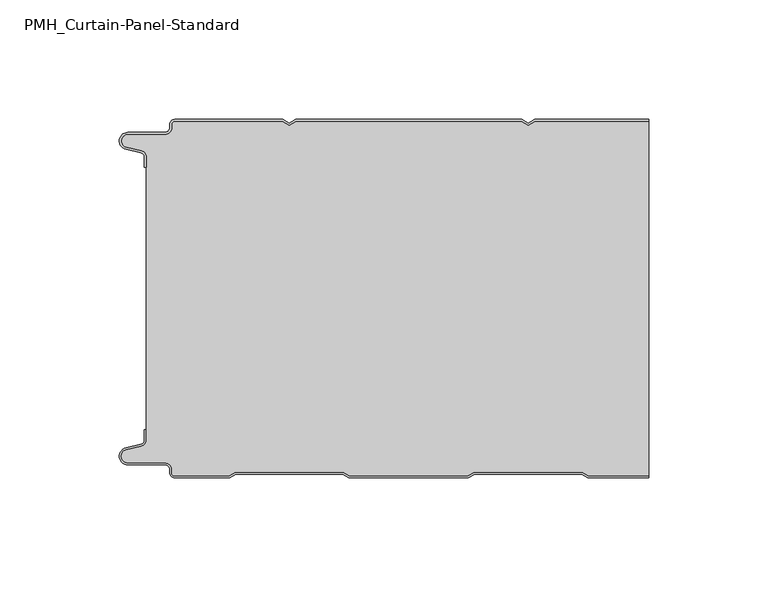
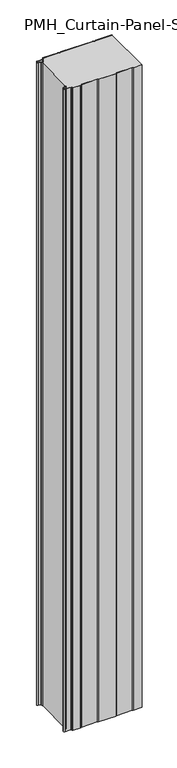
"""IFC4 building model written with IfcOpenShell, lengths in millimetres: plate geometry, PMH_Curtain-Panel-Standard : ACH_PMH_Acoustic-Sectioning-Panel_150M."""

import ifcopenshell
import ifcopenshell.guid

model = None  # the IFC model being written
_history = None  # IfcOwnerHistory: only IFC2X3 demands one
_inside = {}  # id of a spatial element -> (the spatial element, [elements in it])
_under = {}  # id of a project, library or spatial element -> (it, [spatial elements below it])
_declared = {}  # id of a project -> (the project, [libraries it declares])
_typed = {}  # id of a type object -> (the type object, [elements of that type])
_made_of = {}  # id of a material, layer set ... -> (it, [elements and type objects made of it])


def new_model(schema):
    """Start an empty IFC model of exactly this schema.

    Asked for "IFC4X3", IfcOpenShell would pick the latest addendum, in which some entities
    have other attributes; the version numbers below select the first issue.
    IFC2X3 requires an IfcOwnerHistory on every rooted entity: one is made here for all.
    """
    global model, _history
    if schema == "IFC4X3":
        model = ifcopenshell.file(schema_version=(4, 3, 0, 0))
    else:
        model = ifcopenshell.file(schema=schema)
    _inside.clear()
    _under.clear()
    _declared.clear()
    _typed.clear()
    _made_of.clear()
    _history = None
    if model.schema == "IFC2X3":
        org = make("IfcOrganization", Name="unknown")
        user = make(
            "IfcPersonAndOrganization",
            ThePerson=make("IfcPerson", FamilyName="unknown"),
            TheOrganization=org,
        )
        app = make(
            "IfcApplication",
            ApplicationDeveloper=org,
            Version="unknown",
            ApplicationFullName="unknown",
            ApplicationIdentifier="unknown",
        )
        _history = make(
            "IfcOwnerHistory",
            OwningUser=user,
            OwningApplication=app,
            ChangeAction="ADDED",
            CreationDate=0,
        )
    return model


def make(cls, **values):
    """One entity of the class cls with the attributes given. An attribute that is None is left unset."""
    return model.create_entity(
        cls, **{name: value for name, value in values.items() if value is not None}
    )


def rooted(cls, **values):
    """An entity with a GlobalId (a new one), such as an element, a storey or a relation."""
    return make(cls, GlobalId=ifcopenshell.guid.new(), OwnerHistory=_history, **values)


def si_unit(unit_type, name, prefix=None):
    """IfcSIUnit, for example si_unit("LENGTHUNIT", "METRE", prefix="MILLI")."""
    return make("IfcSIUnit", UnitType=unit_type, Prefix=prefix, Name=name)


def assignment(units):
    """IfcUnitAssignment: the units of a project."""
    return None if units is None else make("IfcUnitAssignment", Units=units)


def point(xyz):
    """IfcCartesianPoint."""
    return None if xyz is None else make("IfcCartesianPoint", Coordinates=xyz)


def direction(xyz):
    """IfcDirection."""
    return None if xyz is None else make("IfcDirection", DirectionRatios=xyz)


def frame(location, z_axis=None, x_axis=None):
    """IfcAxis2Placement3D, a coordinate frame: its origin and axes. An axis left out is left unset."""
    return make(
        "IfcAxis2Placement3D",
        Location=point(location),
        Axis=direction(z_axis),
        RefDirection=direction(x_axis),
    )


def frame_2d(location, x_axis=None):
    """IfcAxis2Placement2D, a coordinate frame in the plane: its origin and x axis."""
    return make(
        "IfcAxis2Placement2D", Location=point(location), RefDirection=direction(x_axis)
    )


def origin():
    """The frame at (0, 0, 0) with its axes left unset."""
    return frame((0.0, 0.0, 0.0))


def origin_with_axes():
    """The frame at (0, 0, 0) with the z axis (0, 0, 1) and the x axis (1, 0, 0) written out."""
    return frame((0.0, 0.0, 0.0), z_axis=(0.0, 0.0, 1.0), x_axis=(1.0, 0.0, 0.0))


def place(relative_to, where):
    """IfcLocalPlacement: puts the frame where relative to a parent placement (None: the world)."""
    return make(
        "IfcLocalPlacement", PlacementRelTo=relative_to, RelativePlacement=where
    )


def context(
    kind, dimensions, precision=None, world=None, true_north=None, identifier=None
):
    """IfcGeometricRepresentationContext, for example the 3D "Model" context."""
    return make(
        "IfcGeometricRepresentationContext",
        ContextIdentifier=identifier,
        ContextType=kind,
        CoordinateSpaceDimension=dimensions,
        Precision=precision,
        WorldCoordinateSystem=world,
        TrueNorth=true_north,
    )


def project(units=None, contexts=None):
    """IfcProject with its units and contexts."""
    return rooted(
        "IfcProject",
        Name="project",
        RepresentationContexts=contexts,
        UnitsInContext=assignment(units),
    )


def spatial(cls, under=None, at=None, **own):
    """A site, building, storey or space (cls), placed at a placement, below another one or the project."""
    s = rooted(cls, ObjectPlacement=at, **own)
    if under is not None:
        _under.setdefault(under.id(), (under, []))[1].append(s)
    return s


def polyline(points):
    """IfcPolyline through the points."""
    return make("IfcPolyline", Points=[point(p) for p in points])


def circle_curve(where, radius):
    """IfcCircle in the frame where."""
    return make("IfcCircle", Position=where, Radius=radius)


def trimmed(basis, trim1, trim2, sense, master):
    """IfcTrimmedCurve: the piece of a basis curve between two trims."""
    return make(
        "IfcTrimmedCurve",
        BasisCurve=basis,
        Trim1=trim1,
        Trim2=trim2,
        SenseAgreement=sense,
        MasterRepresentation=master,
    )


def segment(curve, same_sense, transition):
    """IfcCompositeCurveSegment."""
    return make(
        "IfcCompositeCurveSegment",
        Transition=transition,
        SameSense=same_sense,
        ParentCurve=curve,
    )


def composite_curve(segments, self_intersect=None):
    """IfcCompositeCurve: segments joined end to end."""
    return make("IfcCompositeCurve", Segments=segments, SelfIntersect=self_intersect)


def outline(outer, holes=None, kind="AREA"):
    """IfcArbitraryClosedProfileDef: a profile drawn as a closed curve; with holes, ...WithVoids."""
    if holes is None:
        return make("IfcArbitraryClosedProfileDef", ProfileType=kind, OuterCurve=outer)
    return make(
        "IfcArbitraryProfileDefWithVoids",
        ProfileType=kind,
        OuterCurve=outer,
        InnerCurves=holes,
    )


def extrude(swept, where, along, depth):
    """IfcExtrudedAreaSolid: the profile swept, set in the frame where, extruded along a direction by depth."""
    return make(
        "IfcExtrudedAreaSolid",
        SweptArea=swept,
        Position=where,
        ExtrudedDirection=direction(along),
        Depth=depth,
    )


def shape(context_of_items, identifier, shape_type, items):
    """IfcShapeRepresentation: the items that make up one representation, for example the "Body"."""
    return make(
        "IfcShapeRepresentation",
        ContextOfItems=context_of_items,
        RepresentationIdentifier=identifier,
        RepresentationType=shape_type,
        Items=items,
    )


def source(mapping_origin, context_of_items, identifier, shape_type, items):
    """IfcRepresentationMap: a shape defined once, which mapped items show again and again."""
    return make(
        "IfcRepresentationMap",
        MappingOrigin=mapping_origin,
        MappedRepresentation=shape(context_of_items, identifier, shape_type, items),
    )


def transform(
    local_origin,
    x_axis=None,
    y_axis=None,
    z_axis=None,
    scale=None,
    scale2=None,
    scale3=None,
    uniform=True,
):
    """IfcCartesianTransformationOperator3D, or its non-uniform kind. x_axis, y_axis, z_axis: its Axis1, 2, 3."""
    if uniform:
        return make(
            "IfcCartesianTransformationOperator3D",
            Axis1=direction(x_axis),
            Axis2=direction(y_axis),
            LocalOrigin=point(local_origin),
            Scale=scale,
            Axis3=direction(z_axis),
        )
    return make(
        "IfcCartesianTransformationOperator3DnonUniform",
        Axis1=direction(x_axis),
        Axis2=direction(y_axis),
        LocalOrigin=point(local_origin),
        Scale=scale,
        Axis3=direction(z_axis),
        Scale2=scale2,
        Scale3=scale3,
    )


def mapped(mapping_source, mapping_target):
    """IfcMappedItem: shows the shape of a source again, moved by a transform."""
    return make(
        "IfcMappedItem", MappingSource=mapping_source, MappingTarget=mapping_target
    )


def made_of(thing, what):
    """Note that an element or type object is made of a material, layer set ...; save() writes the relation."""
    if what is not None:
        _made_of.setdefault(what.id(), (what, []))[1].append(thing)
    return thing


def element(
    cls,
    number,
    at=None,
    inside=None,
    cuts=None,
    type_object=None,
    material=None,
    context=None,
    identifier="Body",
    shape_type=None,
    held_by="IfcProductDefinitionShape",
    body=None,
    shapes=None,
    **own,
):
    """One element of the class cls, such as IfcWall. Its Tag is "e" and its number.

    at: its placement. inside: the storey or other place that contains it. cuts: it is an
    opening in that element (IfcRelVoidsElement). A single representation is given by context,
    identifier, shape_type and body (its items); several are given by shapes. held_by: the class
    of the entity that holds the representations. save() writes the other relations.
    """
    e = rooted(cls, Tag="e%d" % number, ObjectPlacement=at, **own)
    if body is not None:
        shapes = [shape(context, identifier, shape_type, body)]
    if shapes is not None:
        e.Representation = make(held_by, Representations=shapes)
    if inside is not None:
        _inside.setdefault(inside.id(), (inside, []))[1].append(e)
    if cuts is not None:
        rooted(
            "IfcRelVoidsElement", RelatingBuildingElement=cuts, RelatedOpeningElement=e
        )
    if type_object is not None:
        _typed.setdefault(type_object.id(), (type_object, []))[1].append(e)
    return made_of(e, material)


def aggregate(whole, parts):
    """IfcRelAggregates: a whole, such as a stair, and the parts it consists of."""
    return rooted("IfcRelAggregates", RelatingObject=whole, RelatedObjects=parts)


def save(model, path):
    """Write the relations noted so far, then the file.

    IfcRelAggregates (storeys below a building ...), IfcRelContainedInSpatialStructure (elements
    in a storey), IfcRelDefinesByType, IfcRelAssociatesMaterial and IfcRelDeclares: one each for
    every whole, place, type object, material and project.
    """
    for whole, parts in _under.values():
        aggregate(whole, parts)
    for where, things in _inside.values():
        rooted(
            "IfcRelContainedInSpatialStructure",
            RelatedElements=things,
            RelatingStructure=where,
        )
    for kind, things in _typed.values():
        rooted("IfcRelDefinesByType", RelatedObjects=things, RelatingType=kind)
    for what, things in _made_of.values():
        rooted("IfcRelAssociatesMaterial", RelatedObjects=things, RelatingMaterial=what)
    for by, libraries in _declared.values():
        rooted("IfcRelDeclares", RelatingContext=by, RelatedDefinitions=libraries)
    model.write(path)


def pmh_curtain_panel_standard_dd2a4387(model_context):
    return source(origin(), model_context, "Body", "SweptSolid", [
        extrude(outline(composite_curve([segment(trimmed(circle_curve(frame_2d((-102.0119739, -15.878557)), 2.0), [point((-100.0119739, -15.878557))], [point((-101.5620718, -13.9298169))], True, "CARTESIAN"), True, "CONTINUOUS"), segment(polyline([(-101.5620718, -13.9298169), (-107.7217978, -12.507732)]), True, "CONTINUOUS"), segment(trimmed(circle_curve(frame_2d((-106.9119739, -9.0)), 3.6), [point((-107.7217978, -12.507732))], [point((-106.9119739, -5.4))], False, "CARTESIAN"), True, "CONTINUOUS"), segment(polyline([(-106.9119739, -5.4), (-91.4119739, -5.4)]), True, "CONTINUOUS"), segment(trimmed(circle_curve(frame_2d((-91.4119739, -3.4)), 2.0), [point((-91.4119739, -5.4))], [point((-89.4119739, -3.4))], True, "CARTESIAN"), True, "CONTINUOUS"), segment(polyline([(-89.4119739, -3.4), (-89.4119739, -2.0)]), True, "CONTINUOUS"), segment(trimmed(circle_curve(frame_2d((-87.4119739, -2.0)), 2.0), [point((-89.4119739, -2.0))], [point((-87.4119739, 0.0))], False, "CARTESIAN"), True, "CONTINUOUS"), segment(polyline([(-87.4119739, 0.0), (-42.1119734, 0.0), (-39.4119739, -1.5588455), (-36.7119745, 0.0), (57.8880266, 0.0), (60.5880261, -1.5588455), (63.2880255, 0.0), (111.0119739, 0.0), (111.0119739, -0.8), (63.5023849, -0.8), (60.5880261, -2.482606), (57.6736672, -0.8), (-36.4976151, -0.8), (-39.4119739, -2.482606), (-42.3263328, -0.8), (-87.4119739, -0.8)]), True, "CONTINUOUS"), segment(trimmed(circle_curve(frame_2d((-87.4119739, -2.0)), 1.2), [point((-87.4119739, -0.8))], [point((-88.6119739, -2.0))], True, "CARTESIAN"), True, "CONTINUOUS"), segment(polyline([(-88.6119739, -2.0), (-88.6119739, -3.4)]), True, "CONTINUOUS"), segment(trimmed(circle_curve(frame_2d((-91.4119739, -3.4)), 2.8), [point((-88.6119739, -3.4))], [point((-91.4119739, -6.2))], False, "CARTESIAN"), True, "CONTINUOUS"), segment(polyline([(-91.4119739, -6.2), (-106.9119739, -6.2)]), True, "CONTINUOUS"), segment(trimmed(circle_curve(frame_2d((-106.9119739, -9.0)), 2.8), [point((-106.9119739, -6.2))], [point((-107.541837, -11.7282362))], True, "CARTESIAN"), True, "CONTINUOUS"), segment(polyline([(-107.541837, -11.7282362), (-101.3821109, -13.150321)]), True, "CONTINUOUS"), segment(trimmed(circle_curve(frame_2d((-102.0119739, -15.878557)), 2.8), [point((-101.3821109, -13.150321))], [point((-99.2119739, -15.878557))], False, "CARTESIAN"), True, "CONTINUOUS"), segment(polyline([(-99.2119739, -15.878557), (-99.2119739, -20.0), (-100.0119739, -20.0), (-100.0119739, -15.878557)]), True, "CONTINUOUS")], self_intersect=False)), origin_with_axes(), (0.0, 0.0, 1.0), 1945.7507136),
        extrude(outline(composite_curve([segment(polyline([(-99.2119739, -134.121443), (-99.2119739, -15.8785573)]), True, "CONTINUOUS"), segment(trimmed(circle_curve(frame_2d((-102.0119739, -15.8785573)), 2.8), [point((-99.2119739, -15.8785573))], [point((-101.3821109, -13.1503212))], True, "CARTESIAN"), True, "CONTINUOUS"), segment(polyline([(-101.3821109, -13.1503212), (-107.541837, -11.7282362)]), True, "CONTINUOUS"), segment(trimmed(circle_curve(frame_2d((-106.911974, -9.0)), 2.8), [point((-107.541837, -11.7282362))], [point((-106.911974, -6.2))], False, "CARTESIAN"), True, "CONTINUOUS"), segment(polyline([(-106.911974, -6.2), (-91.411974, -6.2)]), True, "CONTINUOUS"), segment(trimmed(circle_curve(frame_2d((-91.411974, -3.4)), 2.8), [point((-91.411974, -6.2))], [point((-88.611974, -3.4))], True, "CARTESIAN"), True, "CONTINUOUS"), segment(polyline([(-88.611974, -3.4), (-88.611974, -2.0)]), True, "CONTINUOUS"), segment(trimmed(circle_curve(frame_2d((-87.411974, -2.0)), 1.2), [point((-88.611974, -2.0))], [point((-87.411974, -0.8))], False, "CARTESIAN"), True, "CONTINUOUS"), segment(polyline([(-87.411974, -0.8), (-42.3263329, -0.8), (-39.411974, -2.482606), (-36.4976152, -0.8), (57.6736671, -0.8), (60.588026, -2.482606), (63.5023848, -0.8), (111.0119739, -0.8), (111.0119739, -149.2), (85.7985382, -149.2), (83.2004606, -147.7), (37.9717445, -147.7), (35.3736669, -149.2), (-14.2014618, -149.2), (-16.7995394, -147.7), (-62.0282555, -147.7), (-64.6263331, -149.2), (-87.4119739, -149.2)]), True, "CONTINUOUS"), segment(trimmed(circle_curve(frame_2d((-87.4119739, -148.0)), 1.2), [point((-87.4119739, -149.2))], [point((-88.6119739, -148.0))], False, "CARTESIAN"), True, "CONTINUOUS"), segment(polyline([(-88.6119739, -148.0), (-88.6119739, -146.5999998)]), True, "CONTINUOUS"), segment(trimmed(circle_curve(frame_2d((-91.4119739, -146.5999998)), 2.8), [point((-88.6119739, -146.5999998))], [point((-91.4119739, -143.7999998))], True, "CARTESIAN"), True, "CONTINUOUS"), segment(polyline([(-91.4119739, -143.7999998), (-106.9119739, -143.7999998)]), True, "CONTINUOUS"), segment(trimmed(circle_curve(frame_2d((-106.9119739, -141.0)), 2.7999998), [point((-106.9119739, -143.7999998))], [point((-107.5418369, -138.271764))], False, "CARTESIAN"), True, "CONTINUOUS"), segment(polyline([(-107.5418369, -138.271764), (-101.3821109, -136.8496792)]), True, "CONTINUOUS"), segment(trimmed(circle_curve(frame_2d((-102.0119739, -134.121443)), 2.8), [point((-101.3821109, -136.8496792))], [point((-99.2119739, -134.121443))], True, "CARTESIAN"), True, "CONTINUOUS")], self_intersect=False)), origin_with_axes(), (0.0, 0.0, 1.0), 1945.7507136),
        extrude(outline(composite_curve([segment(trimmed(circle_curve(frame_2d((-87.4119739, -148.0)), 2.0), [point((-87.4119739, -150.0))], [point((-89.4119739, -148.0))], False, "CARTESIAN"), True, "CONTINUOUS"), segment(polyline([(-89.4119739, -148.0), (-89.4119739, -146.6)]), True, "CONTINUOUS"), segment(trimmed(circle_curve(frame_2d((-91.4119739, -146.6)), 2.0), [point((-89.4119739, -146.6))], [point((-91.4119739, -144.6))], True, "CARTESIAN"), True, "CONTINUOUS"), segment(polyline([(-91.4119739, -144.6), (-106.9119739, -144.6)]), True, "CONTINUOUS"), segment(trimmed(circle_curve(frame_2d((-106.9119739, -141.0)), 3.6), [point((-106.9119739, -144.6))], [point((-107.7217979, -137.4922678))], False, "CARTESIAN"), True, "CONTINUOUS"), segment(polyline([(-107.7217979, -137.4922678), (-101.5620718, -136.070183)]), True, "CONTINUOUS"), segment(trimmed(circle_curve(frame_2d((-102.0119739, -134.121443)), 2.0), [point((-101.5620718, -136.070183))], [point((-100.0119739, -134.121443))], True, "CARTESIAN"), True, "CONTINUOUS"), segment(polyline([(-100.0119739, -134.121443), (-100.0119739, -130.0), (-99.2119739, -130.0), (-99.2119739, -134.121443)]), True, "CONTINUOUS"), segment(trimmed(circle_curve(frame_2d((-102.0119739, -134.121443)), 2.8), [point((-99.2119739, -134.121443))], [point((-101.3821109, -136.8496792))], False, "CARTESIAN"), True, "CONTINUOUS"), segment(polyline([(-101.3821109, -136.8496792), (-107.5418369, -138.271764)]), True, "CONTINUOUS"), segment(trimmed(circle_curve(frame_2d((-106.9119739, -141.0)), 2.8), [point((-107.5418369, -138.271764))], [point((-106.9119739, -143.8))], True, "CARTESIAN"), True, "CONTINUOUS"), segment(polyline([(-106.9119739, -143.8), (-91.4119739, -143.8)]), True, "CONTINUOUS"), segment(trimmed(circle_curve(frame_2d((-91.4119739, -146.6)), 2.8), [point((-91.4119739, -143.8))], [point((-88.6119739, -146.6))], False, "CARTESIAN"), True, "CONTINUOUS"), segment(polyline([(-88.6119739, -146.6), (-88.6119739, -148.0)]), True, "CONTINUOUS"), segment(trimmed(circle_curve(frame_2d((-87.4119739, -148.0)), 1.2), [point((-88.6119739, -148.0))], [point((-87.4119739, -149.2))], True, "CARTESIAN"), True, "CONTINUOUS"), segment(polyline([(-87.4119739, -149.2), (-64.6263331, -149.2), (-62.0282555, -147.7), (-16.7995394, -147.7), (-14.2014618, -149.2), (35.3736669, -149.2), (37.9717445, -147.7), (83.2004606, -147.7), (85.7985382, -149.2), (111.0119739, -149.2), (111.0119739, -150.0), (85.584179, -150.0), (82.9861014, -148.5), (38.1861037, -148.5), (35.5880261, -150.0), (-14.415821, -150.0), (-17.0138986, -148.5), (-61.8138963, -148.5), (-64.4119739, -150.0), (-87.4119739, -150.0)]), True, "CONTINUOUS")], self_intersect=False)), origin_with_axes(), (0.0, 0.0, 1.0), 1945.7507136),
    ])


if __name__ == "__main__":
    model = new_model("IFC4")
    model_context = context("Model", 3, world=origin())
    ifc_project = project(units=[si_unit("LENGTHUNIT", "METRE", prefix="MILLI")], contexts=[model_context])
    site = spatial("IfcSite", under=ifc_project)
    building = spatial("IfcBuilding", under=site)
    placement = place(None, origin())
    pmh_curtain_panel_standard_shape = pmh_curtain_panel_standard_dd2a4387(model_context)
    element("IfcPlate", 1, ObjectType="PMH_Curtain-Panel-Standard : ACH_PMH_Acoustic-Sectioning-Panel_150M", at=placement, inside=building, context=model_context, shape_type="MappedRepresentation", body=[
        mapped(pmh_curtain_panel_standard_shape, transform((0.0, 0.0, 0.0), x_axis=(1.0, 0.0, 0.0), y_axis=(0.0, 1.0, 0.0), z_axis=(0.0, 0.0, 1.0))),
    ])
    save(model, "model.ifc")
